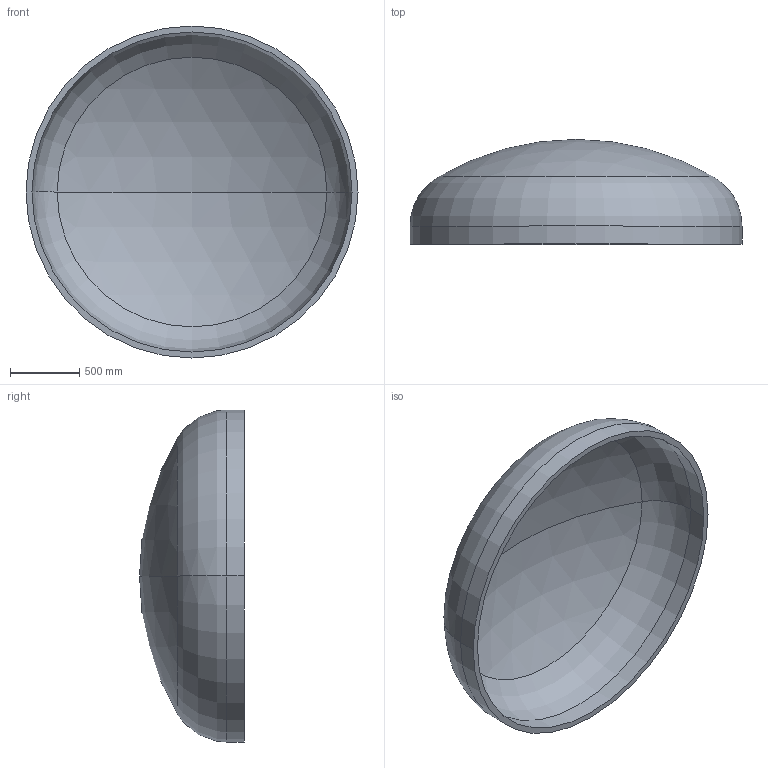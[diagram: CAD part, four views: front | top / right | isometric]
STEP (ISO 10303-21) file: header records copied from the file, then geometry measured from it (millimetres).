
FILE_DESCRIPTION (( 'STEP AP203' ), '1' );
FILE_NAME ('DIN 28013 Korbbogenform_-_Boden DIN 28013 - 2400 x 130 - I - s=43.step', '2016-07-01T15:22:52', ( '' ), ( '' ), 'SwSTEP 2.0', 'SolidWorks 2013', '' );
FILE_SCHEMA (( 'CONFIG_CONTROL_DESIGN' ));
Length unit declared in the file: millimetre
Products named in the file (1): DIN 28013 Korbbogenform_-_Boden DIN 28013 - 2400 x 130 - I - s=43
Bounding box: 2400 x 757.66 x 2400 mm (x, y, z)
Volume: 304577330.3 mm3; surface area: 14488658.9 mm2
Topology: 1 solids, 1 shells, 13 faces, 24 edges, 14 vertices
Faces by surface type: torus 4, cylinder 4, sphere 4, plane 1
Entity records: 407 total; most frequent: DIRECTION 72, CARTESIAN_POINT 52, ORIENTED_EDGE 48, AXIS2_PLACEMENT_3D 34, EDGE_CURVE 24, CIRCLE 20, EDGE_LOOP 14, VERTEX_POINT 14
